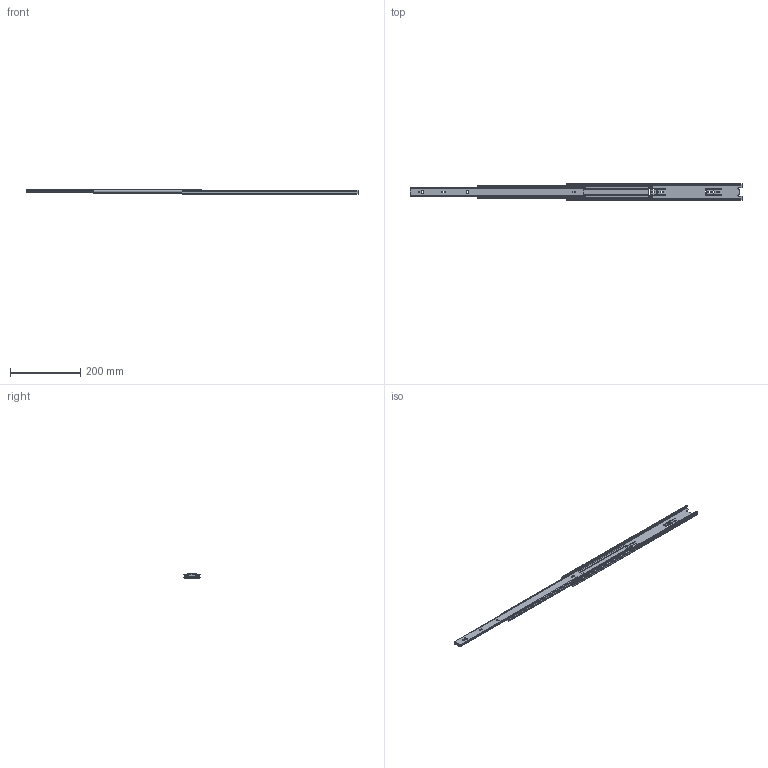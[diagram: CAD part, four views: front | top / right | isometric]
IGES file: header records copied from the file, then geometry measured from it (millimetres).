
Start section: SolidWorks IGES file using analytic representation for surfaces
Global section: file name: C:\Users\Peanut\Documents\_Tech\Classes\Graphics\Waher Dryer Pedestal\Drawer Slide\STEP\New folder\Drawer Slide Side-Mount - MMC 2712A6.IGS; native system: SolidWorks 2014; preprocessor: SolidWorks 2014; author: Peanut; date: 140702.154125; units: millimetre
Bounding box: 944.34 x 45.64 x 12.7 mm (x, y, z)
Surface area: 167125.2 mm2 (no closed solid volume)
Topology: 0 solids, 0 shells, 320 faces, 6642 edges, 6642 vertices
Faces by surface type: bspline 207, revolution 113
